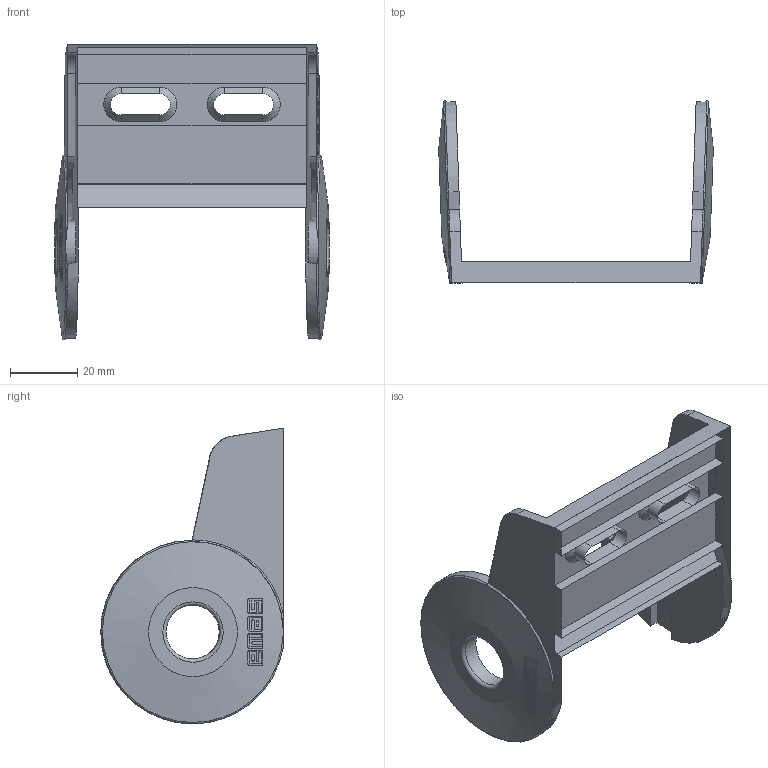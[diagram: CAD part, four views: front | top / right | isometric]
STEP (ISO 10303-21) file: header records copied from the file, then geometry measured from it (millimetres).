
FILE_DESCRIPTION((''),'2; 1');
FILE_NAME('','2026-03-26T10:14:00',(''),(''),'CST STEP Exporter V1.0','Unknown','');
FILE_SCHEMA(('CONFIG_CONTROL_DESIGN'));
Length unit declared in the file: metre
Bounding box: 81.83 x 54.28 x 88.17 mm (x, y, z)
Surface area: 22359.6 mm2 (no closed solid volume)
Topology: 0 solids, 1 shells, 249 faces, 828 edges, 560 vertices
Faces by surface type: plane 155, cylinder 39, extrusion 33, cone 16, torus 6
Full cylindrical faces by diameter (mm): 16 x2
Entity records: 12199 total; most frequent: CARTESIAN_POINT 3852, ORIENTED_EDGE 1420, DIRECTION 965, EDGE_CURVE 818, VERTEX_POINT 556, VECTOR 455, LINE 422, B_SPLINE_CURVE_WITH_KNOTS 334
